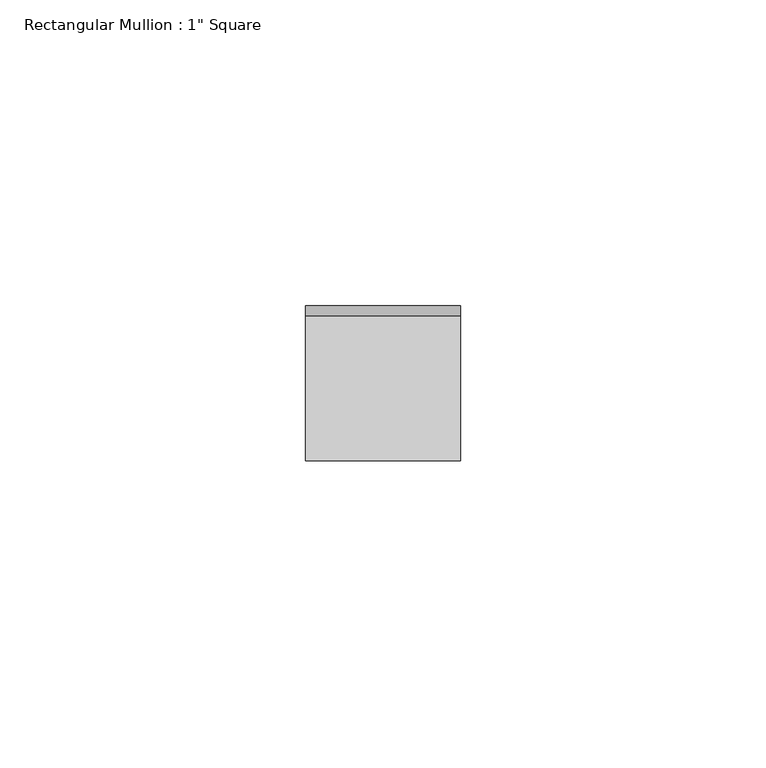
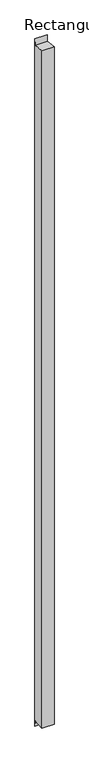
"""IFC4 building model written with IfcOpenShell, lengths in millimetres: member geometry."""

import ifcopenshell
import ifcopenshell.guid

model = None  # the IFC model being written
_history = None  # IfcOwnerHistory: only IFC2X3 demands one
_inside = {}  # id of a spatial element -> (the spatial element, [elements in it])
_under = {}  # id of a project, library or spatial element -> (it, [spatial elements below it])
_declared = {}  # id of a project -> (the project, [libraries it declares])
_typed = {}  # id of a type object -> (the type object, [elements of that type])
_made_of = {}  # id of a material, layer set ... -> (it, [elements and type objects made of it])


def new_model(schema):
    """Start an empty IFC model of exactly this schema.

    Asked for "IFC4X3", IfcOpenShell would pick the latest addendum, in which some entities
    have other attributes; the version numbers below select the first issue.
    IFC2X3 requires an IfcOwnerHistory on every rooted entity: one is made here for all.
    """
    global model, _history
    if schema == "IFC4X3":
        model = ifcopenshell.file(schema_version=(4, 3, 0, 0))
    else:
        model = ifcopenshell.file(schema=schema)
    _inside.clear()
    _under.clear()
    _declared.clear()
    _typed.clear()
    _made_of.clear()
    _history = None
    if model.schema == "IFC2X3":
        org = make("IfcOrganization", Name="unknown")
        user = make(
            "IfcPersonAndOrganization",
            ThePerson=make("IfcPerson", FamilyName="unknown"),
            TheOrganization=org,
        )
        app = make(
            "IfcApplication",
            ApplicationDeveloper=org,
            Version="unknown",
            ApplicationFullName="unknown",
            ApplicationIdentifier="unknown",
        )
        _history = make(
            "IfcOwnerHistory",
            OwningUser=user,
            OwningApplication=app,
            ChangeAction="ADDED",
            CreationDate=0,
        )
    return model


def make(cls, **values):
    """One entity of the class cls with the attributes given. An attribute that is None is left unset."""
    return model.create_entity(
        cls, **{name: value for name, value in values.items() if value is not None}
    )


def rooted(cls, **values):
    """An entity with a GlobalId (a new one), such as an element, a storey or a relation."""
    return make(cls, GlobalId=ifcopenshell.guid.new(), OwnerHistory=_history, **values)


def si_unit(unit_type, name, prefix=None):
    """IfcSIUnit, for example si_unit("LENGTHUNIT", "METRE", prefix="MILLI")."""
    return make("IfcSIUnit", UnitType=unit_type, Prefix=prefix, Name=name)


def assignment(units):
    """IfcUnitAssignment: the units of a project."""
    return None if units is None else make("IfcUnitAssignment", Units=units)


def point(xyz):
    """IfcCartesianPoint."""
    return None if xyz is None else make("IfcCartesianPoint", Coordinates=xyz)


def direction(xyz):
    """IfcDirection."""
    return None if xyz is None else make("IfcDirection", DirectionRatios=xyz)


def frame(location, z_axis=None, x_axis=None):
    """IfcAxis2Placement3D, a coordinate frame: its origin and axes. An axis left out is left unset."""
    return make(
        "IfcAxis2Placement3D",
        Location=point(location),
        Axis=direction(z_axis),
        RefDirection=direction(x_axis),
    )


def origin():
    """The frame at (0, 0, 0) with its axes left unset."""
    return frame((0.0, 0.0, 0.0))


def place(relative_to, where):
    """IfcLocalPlacement: puts the frame where relative to a parent placement (None: the world)."""
    return make(
        "IfcLocalPlacement", PlacementRelTo=relative_to, RelativePlacement=where
    )


def context(
    kind, dimensions, precision=None, world=None, true_north=None, identifier=None
):
    """IfcGeometricRepresentationContext, for example the 3D "Model" context."""
    return make(
        "IfcGeometricRepresentationContext",
        ContextIdentifier=identifier,
        ContextType=kind,
        CoordinateSpaceDimension=dimensions,
        Precision=precision,
        WorldCoordinateSystem=world,
        TrueNorth=true_north,
    )


def project(units=None, contexts=None):
    """IfcProject with its units and contexts."""
    return rooted(
        "IfcProject",
        Name="project",
        RepresentationContexts=contexts,
        UnitsInContext=assignment(units),
    )


def spatial(cls, under=None, at=None, **own):
    """A site, building, storey or space (cls), placed at a placement, below another one or the project."""
    s = rooted(cls, ObjectPlacement=at, **own)
    if under is not None:
        _under.setdefault(under.id(), (under, []))[1].append(s)
    return s


def polyline(points):
    """IfcPolyline through the points."""
    return make("IfcPolyline", Points=[point(p) for p in points])


def outline(outer, holes=None, kind="AREA"):
    """IfcArbitraryClosedProfileDef: a profile drawn as a closed curve; with holes, ...WithVoids."""
    if holes is None:
        return make("IfcArbitraryClosedProfileDef", ProfileType=kind, OuterCurve=outer)
    return make(
        "IfcArbitraryProfileDefWithVoids",
        ProfileType=kind,
        OuterCurve=outer,
        InnerCurves=holes,
    )


def extrude(swept, where, along, depth):
    """IfcExtrudedAreaSolid: the profile swept, set in the frame where, extruded along a direction by depth."""
    return make(
        "IfcExtrudedAreaSolid",
        SweptArea=swept,
        Position=where,
        ExtrudedDirection=direction(along),
        Depth=depth,
    )


def shape(context_of_items, identifier, shape_type, items):
    """IfcShapeRepresentation: the items that make up one representation, for example the "Body"."""
    return make(
        "IfcShapeRepresentation",
        ContextOfItems=context_of_items,
        RepresentationIdentifier=identifier,
        RepresentationType=shape_type,
        Items=items,
    )


def source(mapping_origin, context_of_items, identifier, shape_type, items):
    """IfcRepresentationMap: a shape defined once, which mapped items show again and again."""
    return make(
        "IfcRepresentationMap",
        MappingOrigin=mapping_origin,
        MappedRepresentation=shape(context_of_items, identifier, shape_type, items),
    )


def transform(
    local_origin,
    x_axis=None,
    y_axis=None,
    z_axis=None,
    scale=None,
    scale2=None,
    scale3=None,
    uniform=True,
):
    """IfcCartesianTransformationOperator3D, or its non-uniform kind. x_axis, y_axis, z_axis: its Axis1, 2, 3."""
    if uniform:
        return make(
            "IfcCartesianTransformationOperator3D",
            Axis1=direction(x_axis),
            Axis2=direction(y_axis),
            LocalOrigin=point(local_origin),
            Scale=scale,
            Axis3=direction(z_axis),
        )
    return make(
        "IfcCartesianTransformationOperator3DnonUniform",
        Axis1=direction(x_axis),
        Axis2=direction(y_axis),
        LocalOrigin=point(local_origin),
        Scale=scale,
        Axis3=direction(z_axis),
        Scale2=scale2,
        Scale3=scale3,
    )


def mapped(mapping_source, mapping_target):
    """IfcMappedItem: shows the shape of a source again, moved by a transform."""
    return make(
        "IfcMappedItem", MappingSource=mapping_source, MappingTarget=mapping_target
    )


def made_of(thing, what):
    """Note that an element or type object is made of a material, layer set ...; save() writes the relation."""
    if what is not None:
        _made_of.setdefault(what.id(), (what, []))[1].append(thing)
    return thing


def element(
    cls,
    number,
    at=None,
    inside=None,
    cuts=None,
    type_object=None,
    material=None,
    context=None,
    identifier="Body",
    shape_type=None,
    held_by="IfcProductDefinitionShape",
    body=None,
    shapes=None,
    **own,
):
    """One element of the class cls, such as IfcWall. Its Tag is "e" and its number.

    at: its placement. inside: the storey or other place that contains it. cuts: it is an
    opening in that element (IfcRelVoidsElement). A single representation is given by context,
    identifier, shape_type and body (its items); several are given by shapes. held_by: the class
    of the entity that holds the representations. save() writes the other relations.
    """
    e = rooted(cls, Tag="e%d" % number, ObjectPlacement=at, **own)
    if body is not None:
        shapes = [shape(context, identifier, shape_type, body)]
    if shapes is not None:
        e.Representation = make(held_by, Representations=shapes)
    if inside is not None:
        _inside.setdefault(inside.id(), (inside, []))[1].append(e)
    if cuts is not None:
        rooted(
            "IfcRelVoidsElement", RelatingBuildingElement=cuts, RelatedOpeningElement=e
        )
    if type_object is not None:
        _typed.setdefault(type_object.id(), (type_object, []))[1].append(e)
    return made_of(e, material)


def aggregate(whole, parts):
    """IfcRelAggregates: a whole, such as a stair, and the parts it consists of."""
    return rooted("IfcRelAggregates", RelatingObject=whole, RelatedObjects=parts)


def save(model, path):
    """Write the relations noted so far, then the file.

    IfcRelAggregates (storeys below a building ...), IfcRelContainedInSpatialStructure (elements
    in a storey), IfcRelDefinesByType, IfcRelAssociatesMaterial and IfcRelDeclares: one each for
    every whole, place, type object, material and project.
    """
    for whole, parts in _under.values():
        aggregate(whole, parts)
    for where, things in _inside.values():
        rooted(
            "IfcRelContainedInSpatialStructure",
            RelatedElements=things,
            RelatingStructure=where,
        )
    for kind, things in _typed.values():
        rooted("IfcRelDefinesByType", RelatedObjects=things, RelatingType=kind)
    for what, things in _made_of.values():
        rooted("IfcRelAssociatesMaterial", RelatedObjects=things, RelatingMaterial=what)
    for by, libraries in _declared.values():
        rooted("IfcRelDeclares", RelatingContext=by, RelatedDefinitions=libraries)
    model.write(path)


def member_427ea564(model_context):
    return source(origin(), model_context, "Body", "SweptSolid", [
        extrude(outline(polyline([(-12.7, 1.4996528), (11.0128906, -1.4878906), (12.7, 11.903125), (12.7, -1510.503125), (11.0128906, -1497.1121094), (-12.7, -1500.0996528), (-12.7, 1.4996528)])), frame((-25.4, 0.0, 0.0), z_axis=(1.0, 0.0, 0.0), x_axis=(0.0, 1.0, 0.0)), (0.0, 0.0, 1.0), 25.4),
    ])


if __name__ == "__main__":
    model = new_model("IFC4")
    model_context = context("Model", 3, world=origin())
    ifc_project = project(units=[si_unit("LENGTHUNIT", "METRE", prefix="MILLI")], contexts=[model_context])
    site = spatial("IfcSite", under=ifc_project)
    building = spatial("IfcBuilding", under=site)
    placement = place(None, origin())
    member_shape = member_427ea564(model_context)
    element("IfcMember", 1, ObjectType="Rectangular Mullion : 1\" Square", at=placement, inside=building, context=model_context, shape_type="MappedRepresentation", body=[
        mapped(member_shape, transform((0.0, 0.0, 0.0), x_axis=(1.0, 0.0, 0.0), y_axis=(0.0, 1.0, 0.0), z_axis=(0.0, 0.0, 1.0))),
    ])
    save(model, "model.ifc")
